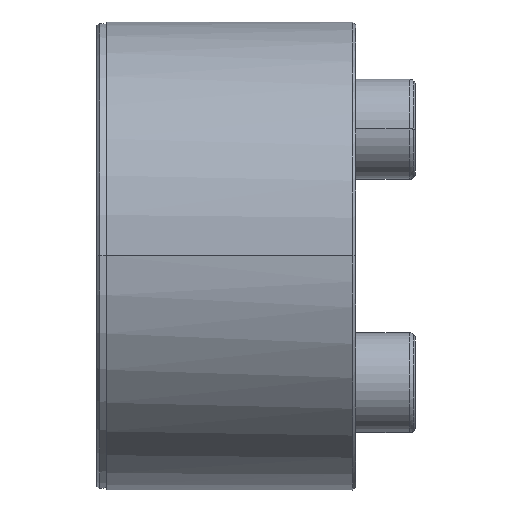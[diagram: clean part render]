
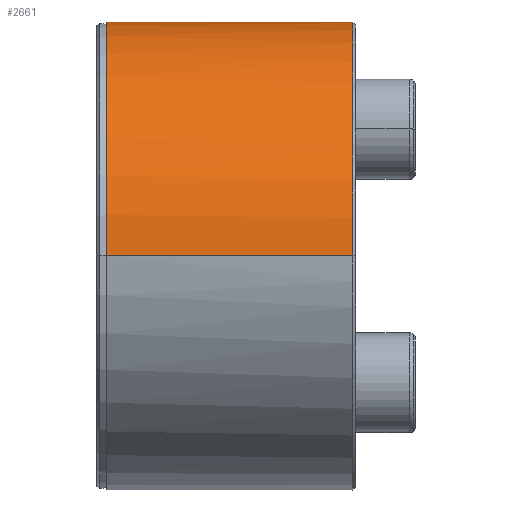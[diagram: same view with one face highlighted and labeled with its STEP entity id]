
A CAD part, top view. The second image highlights one B-rep face of the part: STEP entity #2661.
In plain terms, the highlighted cylindrical face has radius 23.5 mm (diameter 47 mm), a partial arc.
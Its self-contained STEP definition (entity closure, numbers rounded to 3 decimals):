
#24 = CARTESIAN_POINT ( 'NONE',  ( 25.689, 14.334, -18.685 ) ) ;
#139 = CARTESIAN_POINT ( 'NONE',  ( 0.989, 0., -23.5 ) ) ;
#217 = VERTEX_POINT ( 'NONE', #4743 ) ;
#411 = CARTESIAN_POINT ( 'NONE',  ( 25.689, 10.413, -21.123 ) ) ;
#435 = CARTESIAN_POINT ( 'NONE',  ( 25.689, 11.776, -20.394 ) ) ;
#437 = DIRECTION ( 'NONE',  ( 0., -0.999, 0.043 ) ) ;
#444 = VERTEX_POINT ( 'NONE', #4484 ) ;
#528 = ORIENTED_EDGE ( 'NONE', *, *, #1895, .T. ) ;
#749 = CARTESIAN_POINT ( 'NONE',  ( 25.689, 3.075, -23.349 ) ) ;
#808 = CARTESIAN_POINT ( 'NONE',  ( 25.689, 22.748, 6.093 ) ) ;
#812 = DIRECTION ( 'NONE',  ( -1., 0., 0. ) ) ;
#820 = ORIENTED_EDGE ( 'NONE', *, *, #1822, .T. ) ;
#929 = EDGE_LOOP ( 'NONE', ( #2294, #4140, #820, #528 ) ) ;
#1165 = CARTESIAN_POINT ( 'NONE',  ( 25.689, 1.537, -23.5 ) ) ;
#1192 = CARTESIAN_POINT ( 'NONE',  ( 0.989, 0., 23.5 ) ) ;
#1277 = CARTESIAN_POINT ( 'NONE',  ( 25.689, 22.3, -7.572 ) ) ;
#1458 = DIRECTION ( 'NONE',  ( 1., 0., 0. ) ) ;
#1505 = CIRCLE ( 'NONE', #1590, 23.5 ) ;
#1540 = FACE_OUTER_BOUND ( 'NONE', #929, .T. ) ;
#1590 = AXIS2_PLACEMENT_3D ( 'NONE', #2585, #812, #437 ) ;
#1591 = DIRECTION ( 'NONE',  ( 1., 0., 0. ) ) ;
#1593 = CARTESIAN_POINT ( 'NONE',  ( 25.689, 15.529, -17.705 ) ) ;
#1612 = EDGE_CURVE ( 'NONE', #1704, #444, #2670, .T. ) ;
#1622 = CARTESIAN_POINT ( 'NONE',  ( 0.989, 0., 0. ) ) ;
#1623 = CARTESIAN_POINT ( 'NONE',  ( 25.689, 22.748, -6.093 ) ) ;
#1648 = CARTESIAN_POINT ( 'NONE',  ( 25.689, 18.685, -14.335 ) ) ;
#1704 = VERTEX_POINT ( 'NONE', #3084 ) ;
#1822 = EDGE_CURVE ( 'NONE', #4389, #217, #2775, .T. ) ;
#1844 = AXIS2_PLACEMENT_3D ( 'NONE', #1622, #1591, #3642 ) ;
#1895 = EDGE_CURVE ( 'NONE', #217, #444, #3395, .T. ) ;
#1984 = CARTESIAN_POINT ( 'NONE',  ( 25.689, 1.537, 23.5 ) ) ;
#2007 = CARTESIAN_POINT ( 'NONE',  ( 25.689, 17.704, 15.53 ) ) ;
#2040 = CARTESIAN_POINT ( 'NONE',  ( 25.689, 14.334, 18.685 ) ) ;
#2065 = CARTESIAN_POINT ( 'NONE',  ( 25.689, 17.704, -15.53 ) ) ;
#2203 = DIRECTION ( 'NONE',  ( 1., 0., 0. ) ) ;
#2294 = ORIENTED_EDGE ( 'NONE', *, *, #1612, .F. ) ;
#2477 = CARTESIAN_POINT ( 'NONE',  ( 25.689, -0.001, -23.5 ) ) ;
#2585 = CARTESIAN_POINT ( 'NONE',  ( 0.989, 0., 0. ) ) ;
#2661 = ADVANCED_FACE ( 'NONE', ( #1540 ), #3248, .T. ) ;
#2670 = LINE ( 'NONE', #139, #4392 ) ;
#2775 = LINE ( 'NONE', #4462, #4984 ) ;
#2859 = CARTESIAN_POINT ( 'NONE',  ( 25.689, 23.349, 3.076 ) ) ;
#3084 = CARTESIAN_POINT ( 'NONE',  ( 0.989, 0., -23.5 ) ) ;
#3248 = CYLINDRICAL_SURFACE ( 'NONE', #1844, 23.5 ) ;
#3279 = CARTESIAN_POINT ( 'NONE',  ( 25.689, 20.394, -11.777 ) ) ;
#3332 = CARTESIAN_POINT ( 'NONE',  ( 25.689, 7.571, -22.3 ) ) ;
#3395 = B_SPLINE_CURVE_WITH_KNOTS ( 'NONE', 3,
 ( #3754, #1984, #4106, #4189, #4082, #3698, #5373, #2040, #4516, #2007, #3775, #3669, #5025, #4573, #808, #2859, #5399, #4165, #4998, #1623, #1277, #5345, #3279, #1648, #2065, #1593, #24, #435, #411, #3332, #4941, #749, #1165, #2477 ),
 .UNSPECIFIED., .F., .F.,
 ( 4, 2, 2, 2, 2, 2, 2, 2, 2, 2, 2, 2, 2, 2, 2, 2, 4 ),
 ( 0.247, 0.278, 0.31, 0.342, 0.373, 0.405, 0.437, 0.468, 0.5, 0.532, 0.563, 0.595, 0.627, 0.658, 0.69, 0.722, 0.753 ),
 .UNSPECIFIED. ) ;
#3642 = DIRECTION ( 'NONE',  ( 0., 0., 1. ) ) ;
#3669 = CARTESIAN_POINT ( 'NONE',  ( 25.689, 20.394, 11.777 ) ) ;
#3698 = CARTESIAN_POINT ( 'NONE',  ( 25.689, 10.413, 21.123 ) ) ;
#3754 = CARTESIAN_POINT ( 'NONE',  ( 25.689, -0.001, 23.5 ) ) ;
#3775 = CARTESIAN_POINT ( 'NONE',  ( 25.689, 18.685, 14.335 ) ) ;
#4082 = CARTESIAN_POINT ( 'NONE',  ( 25.689, 7.571, 22.3 ) ) ;
#4106 = CARTESIAN_POINT ( 'NONE',  ( 25.689, 3.075, 23.349 ) ) ;
#4140 = ORIENTED_EDGE ( 'NONE', *, *, #4195, .F. ) ;
#4165 = CARTESIAN_POINT ( 'NONE',  ( 25.689, 23.5, -1.538 ) ) ;
#4189 = CARTESIAN_POINT ( 'NONE',  ( 25.689, 6.092, 22.749 ) ) ;
#4195 = EDGE_CURVE ( 'NONE', #4389, #1704, #1505, .T. ) ;
#4389 = VERTEX_POINT ( 'NONE', #1192 ) ;
#4392 = VECTOR ( 'NONE', #2203, 1000. ) ;
#4462 = CARTESIAN_POINT ( 'NONE',  ( 0.989, 0., 23.5 ) ) ;
#4484 = CARTESIAN_POINT ( 'NONE',  ( 25.689, -0.001, -23.5 ) ) ;
#4516 = CARTESIAN_POINT ( 'NONE',  ( 25.689, 15.529, 17.705 ) ) ;
#4573 = CARTESIAN_POINT ( 'NONE',  ( 25.689, 22.3, 7.572 ) ) ;
#4743 = CARTESIAN_POINT ( 'NONE',  ( 25.689, -0.001, 23.5 ) ) ;
#4941 = CARTESIAN_POINT ( 'NONE',  ( 25.689, 6.092, -22.749 ) ) ;
#4984 = VECTOR ( 'NONE', #1458, 1000. ) ;
#4998 = CARTESIAN_POINT ( 'NONE',  ( 25.689, 23.349, -3.076 ) ) ;
#5025 = CARTESIAN_POINT ( 'NONE',  ( 25.689, 21.122, 10.414 ) ) ;
#5345 = CARTESIAN_POINT ( 'NONE',  ( 25.689, 21.122, -10.414 ) ) ;
#5373 = CARTESIAN_POINT ( 'NONE',  ( 25.689, 11.776, 20.394 ) ) ;
#5399 = CARTESIAN_POINT ( 'NONE',  ( 25.689, 23.5, 1.538 ) ) ;
